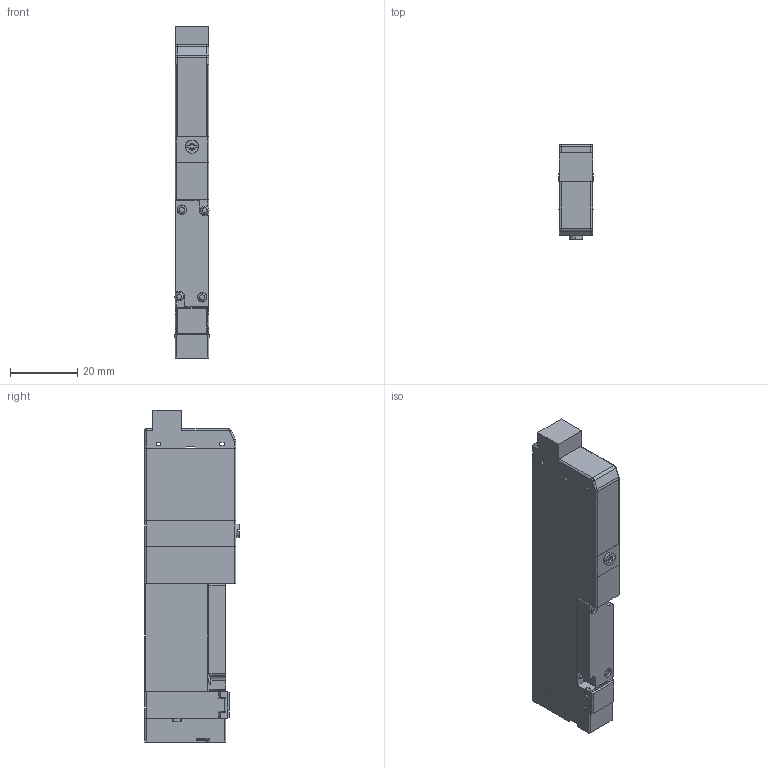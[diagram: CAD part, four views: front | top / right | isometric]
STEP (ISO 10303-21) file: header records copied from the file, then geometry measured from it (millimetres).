
FILE_DESCRIPTION( (''), '2;1');
FILE_NAME ('CVICAD02.13484.F10T1-A1-PN_5734.stp','2020-09-01T14:09:57',(''),(''),'spGate 12.6.6','','');
FILE_SCHEMA (('AUTOMOTIVE_DESIGN'));
Length unit declared in the file: millimetre
Products named in the file (8): Assembly; F10_Adptor; F_3PortBody; F10_Cap; F10_SwitchBlock1; F10T_Body; F_Connector-PN; F10_A1
Assembly tree (7 placements, depth 2):
  Assembly
    F10_Adptor
    F_3PortBody
    F10_Cap
    F10_SwitchBlock1
    F10T_Body
    F_Connector-PN
    F10_A1
Bounding box: 10.2 x 28 x 98.5 mm (x, y, z)
Volume: 23720.9 mm3; surface area: 11095.3 mm2
Topology: 7 solids, 7 shells, 286 faces, 740 edges, 482 vertices
Faces by surface type: plane 173, cylinder 89, bspline 22, sphere 2
Entity records: 15154 total; most frequent: CARTESIAN_POINT 1985, ORIENTED_EDGE 1476, DIRECTION 1475, COLOUR_RGB 1031, PRESENTATION_STYLE_ASSIGNMENT 1031, STYLED_ITEM 1031, EDGE_CURVE 738, DRAUGHTING_PRE_DEFINED_CURVE_FONT 738
